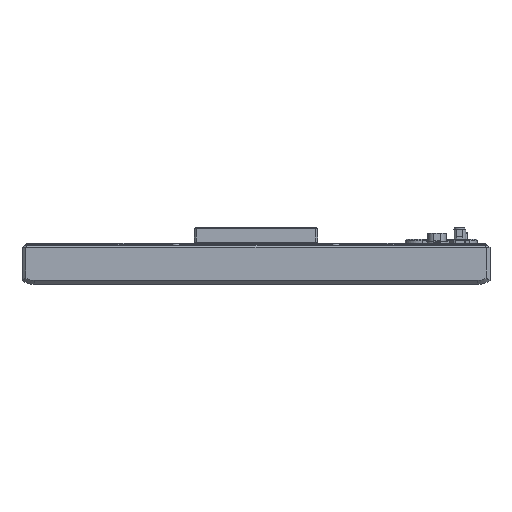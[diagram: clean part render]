
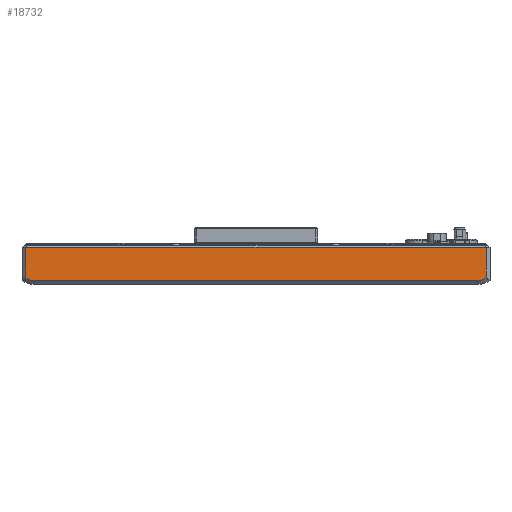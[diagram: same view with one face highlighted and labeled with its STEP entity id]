
A CAD part, left-side view. The second image highlights one B-rep face of the part: STEP entity #18732.
In plain terms, the highlighted planar face has unit normal (-1, 0, 0).
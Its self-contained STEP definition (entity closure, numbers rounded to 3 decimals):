
#18426=CARTESIAN_POINT('',(-252.,223.7,36.0));
#18427=VERTEX_POINT('',#18426);
#18434=CARTESIAN_POINT('',(-252.,-223.7,36.0));
#18435=VERTEX_POINT('',#18434);
#18436=CARTESIAN_POINT('',(-252.,223.7,36.0));
#18437=DIRECTION('',(0.0,-1.0,0.0));
#18438=VECTOR('',#18437,447.4);
#18439=LINE('',#18436,#18438);
#18440=EDGE_CURVE('',#18427,#18435,#18439,.T.);
#18665=CARTESIAN_POINT('',(-252.,-223.7,5.879));
#18666=VERTEX_POINT('',#18665);
#18667=CARTESIAN_POINT('',(-252.,-223.7,36.0));
#18668=DIRECTION('',(0.0,0.0,-1.0));
#18669=VECTOR('',#18668,30.121);
#18670=LINE('',#18667,#18669);
#18671=EDGE_CURVE('',#18435,#18666,#18670,.T.);
#18691=CARTESIAN_POINT('',(-252.,-227.5,0.0));
#18692=DIRECTION('',(-1.0,0.0,0.0));
#18693=DIRECTION('',(0.0,0.0,1.0));
#18694=AXIS2_PLACEMENT_3D('',#18691,#18692,#18693);
#18695=PLANE('',#18694);
#18696=ORIENTED_EDGE('',*,*,#18440,.F.);
#18697=CARTESIAN_POINT('',(-252.,223.7,5.879));
#18698=VERTEX_POINT('',#18697);
#18699=CARTESIAN_POINT('',(-252.,223.7,5.879));
#18700=DIRECTION('',(0.0,0.0,1.0));
#18701=VECTOR('',#18700,30.121);
#18702=LINE('',#18699,#18701);
#18703=EDGE_CURVE('',#18698,#18427,#18702,.T.);
#18704=ORIENTED_EDGE('',*,*,#18703,.F.);
#18705=CARTESIAN_POINT('',(-252.,215.76,3.8));
#18706=VERTEX_POINT('',#18705);
#18707=CARTESIAN_POINT('',(-252.,215.76,20.0));
#18708=DIRECTION('',(1.0,0.0,0.0));
#18709=DIRECTION('',(0.0,0.0,-1.0));
#18710=AXIS2_PLACEMENT_3D('',#18707,#18708,#18709);
#18711=CIRCLE('',#18710,16.2);
#18712=EDGE_CURVE('',#18706,#18698,#18711,.T.);
#18713=ORIENTED_EDGE('',*,*,#18712,.F.);
#18714=CARTESIAN_POINT('',(-252.,-215.76,3.8));
#18715=VERTEX_POINT('',#18714);
#18716=CARTESIAN_POINT('',(-252.,-215.76,3.8));
#18717=DIRECTION('',(0.0,1.0,0.0));
#18718=VECTOR('',#18717,431.52);
#18719=LINE('',#18716,#18718);
#18720=EDGE_CURVE('',#18715,#18706,#18719,.T.);
#18721=ORIENTED_EDGE('',*,*,#18720,.F.);
#18722=CARTESIAN_POINT('',(-252.,-215.76,20.0));
#18723=DIRECTION('',(1.,0.0,0.0));
#18724=DIRECTION('',(0.0,-0.587,-0.81));
#18725=AXIS2_PLACEMENT_3D('',#18722,#18723,#18724);
#18726=CIRCLE('',#18725,16.2);
#18727=EDGE_CURVE('',#18666,#18715,#18726,.T.);
#18728=ORIENTED_EDGE('',*,*,#18727,.F.);
#18729=ORIENTED_EDGE('',*,*,#18671,.F.);
#18730=EDGE_LOOP('',(#18696,#18704,#18713,#18721,#18728,#18729));
#18731=FACE_OUTER_BOUND('',#18730,.T.);
#18732=ADVANCED_FACE('',(#18731),#18695,.T.);
